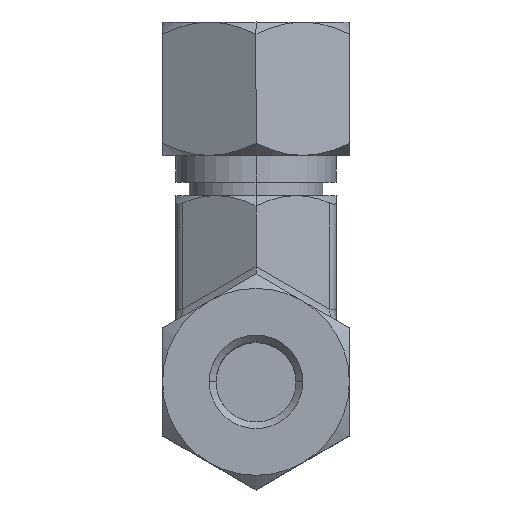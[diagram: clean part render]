
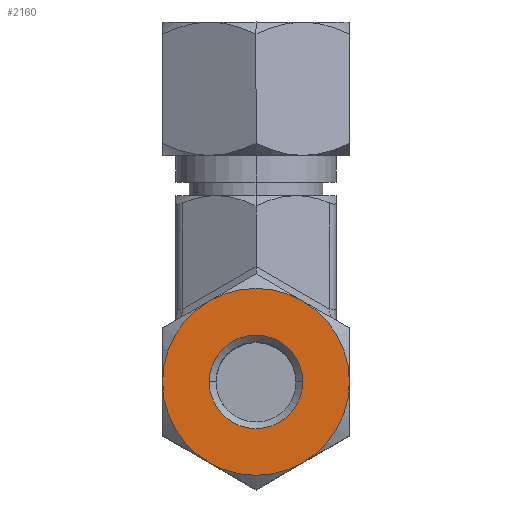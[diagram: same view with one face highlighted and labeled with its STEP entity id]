
A CAD part, top view. The second image highlights one B-rep face of the part: STEP entity #2160.
In plain terms, the highlighted planar face has unit normal (0, 0, 1).
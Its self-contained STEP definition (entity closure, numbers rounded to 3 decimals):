
#39 = EDGE_CURVE ( 'NONE', #4003, #3805, #2065, .T. ) ;
#68 = DIRECTION ( 'NONE',  ( 0., 0., 1. ) ) ;
#96 = CARTESIAN_POINT ( 'NONE',  ( 0., 0., 27. ) ) ;
#111 = CARTESIAN_POINT ( 'NONE',  ( 0., 0., 27. ) ) ;
#127 = DIRECTION ( 'NONE',  ( 1., 0., 0. ) ) ;
#223 = CIRCLE ( 'NONE', #1890, 3.5 ) ;
#298 = DIRECTION ( 'NONE',  ( 1., 0., 0. ) ) ;
#304 = CARTESIAN_POINT ( 'NONE',  ( 3.5, 6.062, 27. ) ) ;
#412 = DIRECTION ( 'NONE',  ( 1., 0., 0. ) ) ;
#512 = CARTESIAN_POINT ( 'NONE',  ( 3.5, -6.062, 27. ) ) ;
#523 = ORIENTED_EDGE ( 'NONE', *, *, #3454, .T. ) ;
#531 = FACE_BOUND ( 'NONE', #3491, .T. ) ;
#563 = DIRECTION ( 'NONE',  ( 0., 0., 1. ) ) ;
#584 = VERTEX_POINT ( 'NONE', #4049 ) ;
#664 = CIRCLE ( 'NONE', #2207, 7. ) ;
#668 = CARTESIAN_POINT ( 'NONE',  ( -3.5, 6.062, 27. ) ) ;
#722 = EDGE_CURVE ( 'NONE', #2269, #1624, #1846, .T. ) ;
#737 = DIRECTION ( 'NONE',  ( 0., 0., 1. ) ) ;
#740 = AXIS2_PLACEMENT_3D ( 'NONE', #111, #3020, #2572 ) ;
#844 = DIRECTION ( 'NONE',  ( 0., 0., 1. ) ) ;
#971 = EDGE_CURVE ( 'NONE', #3805, #3468, #1223, .T. ) ;
#982 = CARTESIAN_POINT ( 'NONE',  ( 0., 0., 27. ) ) ;
#1140 = ORIENTED_EDGE ( 'NONE', *, *, #722, .T. ) ;
#1161 = CARTESIAN_POINT ( 'NONE',  ( 0., 0., 27. ) ) ;
#1166 = DIRECTION ( 'NONE',  ( 1., 0., 0. ) ) ;
#1223 = CIRCLE ( 'NONE', #3936, 7. ) ;
#1269 = CARTESIAN_POINT ( 'NONE',  ( 0., 0., 27. ) ) ;
#1487 = DIRECTION ( 'NONE',  ( 1., 0., 0. ) ) ;
#1592 = DIRECTION ( 'NONE',  ( 0., 0., 1. ) ) ;
#1617 = CARTESIAN_POINT ( 'NONE',  ( -3.5, -6.062, 27. ) ) ;
#1624 = VERTEX_POINT ( 'NONE', #512 ) ;
#1630 = ORIENTED_EDGE ( 'NONE', *, *, #39, .T. ) ;
#1728 = CARTESIAN_POINT ( 'NONE',  ( 7., 0., 27. ) ) ;
#1798 = CARTESIAN_POINT ( 'NONE',  ( 0., 0., 27. ) ) ;
#1823 = CIRCLE ( 'NONE', #3934, 7. ) ;
#1846 = CIRCLE ( 'NONE', #3031, 7. ) ;
#1851 = AXIS2_PLACEMENT_3D ( 'NONE', #1161, #737, #298 ) ;
#1890 = AXIS2_PLACEMENT_3D ( 'NONE', #96, #3432, #3010 ) ;
#1895 = DIRECTION ( 'NONE',  ( 0., 0., 1. ) ) ;
#1929 = EDGE_LOOP ( 'NONE', ( #3046, #523, #1630, #2830, #3715, #1140 ) ) ;
#1983 = EDGE_CURVE ( 'NONE', #3468, #2269, #664, .T. ) ;
#2014 = CARTESIAN_POINT ( 'NONE',  ( 0., 0., 27. ) ) ;
#2065 = CIRCLE ( 'NONE', #1851, 7. ) ;
#2130 = AXIS2_PLACEMENT_3D ( 'NONE', #1269, #844, #412 ) ;
#2160 = ADVANCED_FACE ( 'NONE', ( #531, #3731 ), #2435, .T. ) ;
#2207 = AXIS2_PLACEMENT_3D ( 'NONE', #2754, #1895, #1487 ) ;
#2269 = VERTEX_POINT ( 'NONE', #1617 ) ;
#2374 = CIRCLE ( 'NONE', #2130, 7. ) ;
#2435 = PLANE ( 'NONE',  #3846 ) ;
#2472 = ORIENTED_EDGE ( 'NONE', *, *, #3080, .T. ) ;
#2572 = DIRECTION ( 'NONE',  ( 1., 0., 0. ) ) ;
#2754 = CARTESIAN_POINT ( 'NONE',  ( 0., 0., 27. ) ) ;
#2830 = ORIENTED_EDGE ( 'NONE', *, *, #971, .T. ) ;
#3010 = DIRECTION ( 'NONE',  ( 1., 0., 0. ) ) ;
#3020 = DIRECTION ( 'NONE',  ( 0., 0., -1. ) ) ;
#3031 = AXIS2_PLACEMENT_3D ( 'NONE', #982, #563, #127 ) ;
#3046 = ORIENTED_EDGE ( 'NONE', *, *, #3972, .T. ) ;
#3058 = DIRECTION ( 'NONE',  ( 1., 0., 0. ) ) ;
#3080 = EDGE_CURVE ( 'NONE', #584, #3477, #3671, .T. ) ;
#3432 = DIRECTION ( 'NONE',  ( 0., 0., -1. ) ) ;
#3454 = EDGE_CURVE ( 'NONE', #3703, #4003, #2374, .T. ) ;
#3468 = VERTEX_POINT ( 'NONE', #4076 ) ;
#3477 = VERTEX_POINT ( 'NONE', #3647 ) ;
#3480 = DIRECTION ( 'NONE',  ( 0., 0., 1. ) ) ;
#3491 = EDGE_LOOP ( 'NONE', ( #2472, #4110 ) ) ;
#3647 = CARTESIAN_POINT ( 'NONE',  ( -3.5, 0., 27. ) ) ;
#3671 = CIRCLE ( 'NONE', #740, 3.5 ) ;
#3703 = VERTEX_POINT ( 'NONE', #1728 ) ;
#3715 = ORIENTED_EDGE ( 'NONE', *, *, #1983, .T. ) ;
#3731 = FACE_OUTER_BOUND ( 'NONE', #1929, .T. ) ;
#3805 = VERTEX_POINT ( 'NONE', #668 ) ;
#3837 = DIRECTION ( 'NONE',  ( 1., 0., 0. ) ) ;
#3846 = AXIS2_PLACEMENT_3D ( 'NONE', #2014, #1592, #1166 ) ;
#3907 = CARTESIAN_POINT ( 'NONE',  ( 0., 0., 27. ) ) ;
#3934 = AXIS2_PLACEMENT_3D ( 'NONE', #1798, #68, #3837 ) ;
#3936 = AXIS2_PLACEMENT_3D ( 'NONE', #3907, #3480, #3058 ) ;
#3972 = EDGE_CURVE ( 'NONE', #1624, #3703, #1823, .T. ) ;
#4003 = VERTEX_POINT ( 'NONE', #304 ) ;
#4049 = CARTESIAN_POINT ( 'NONE',  ( 3.5, 0., 27. ) ) ;
#4076 = CARTESIAN_POINT ( 'NONE',  ( -7., 0., 27. ) ) ;
#4109 = EDGE_CURVE ( 'NONE', #3477, #584, #223, .T. ) ;
#4110 = ORIENTED_EDGE ( 'NONE', *, *, #4109, .T. ) ;
